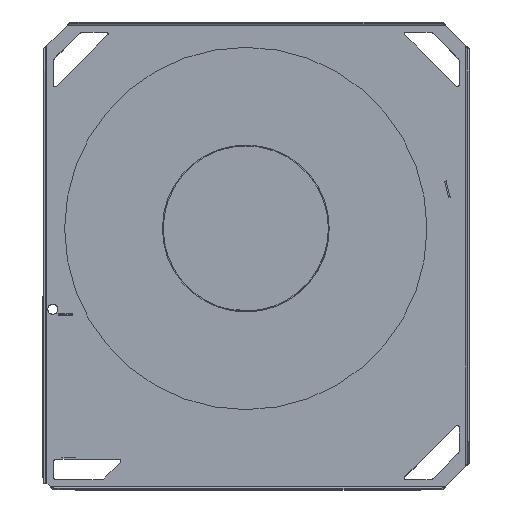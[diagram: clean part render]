
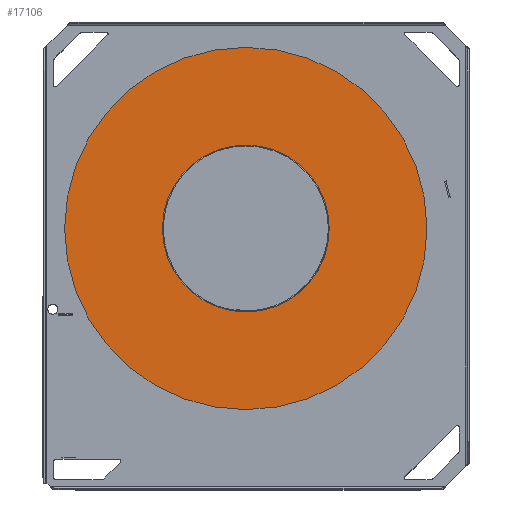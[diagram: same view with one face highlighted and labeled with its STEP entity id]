
A CAD part, top view. The second image highlights one B-rep face of the part: STEP entity #17106.
In plain terms, the highlighted planar face has unit normal (0, 0, 1).
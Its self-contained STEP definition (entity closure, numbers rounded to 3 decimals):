
#16962=CARTESIAN_POINT('',(0.,0.,2.));
#16963=DIRECTION('',(0.,0.,1.));
#16964=DIRECTION('',(1.,0.,0.));
#16965=AXIS2_PLACEMENT_3D('',#16962,#16963,#16964);
#16970=CARTESIAN_POINT('',(0.,0.,2.));
#16971=DIRECTION('',(0.,0.,1.));
#16972=DIRECTION('',(-1.,0.,0.));
#16973=AXIS2_PLACEMENT_3D('',#16970,#16971,#16972);
#16978=CARTESIAN_POINT('',(0.,0.,2.));
#16979=DIRECTION('',(0.,0.,-1.));
#16980=DIRECTION('',(1.,0.,0.));
#16981=AXIS2_PLACEMENT_3D('',#16978,#16979,#16980);
#16986=CARTESIAN_POINT('',(0.,0.,2.));
#16987=DIRECTION('',(0.,0.,-1.));
#16988=DIRECTION('',(-1.,0.,0.));
#16989=AXIS2_PLACEMENT_3D('',#16986,#16987,#16988);
#17016=CARTESIAN_POINT('',(215.,0.,2.));
#17017=CARTESIAN_POINT('',(-215.,0.,2.));
#17018=VERTEX_POINT('',#17016);
#17019=VERTEX_POINT('',#17017);
#17020=CARTESIAN_POINT('',(99.,0.,2.));
#17021=CARTESIAN_POINT('',(-99.,0.,2.));
#17022=VERTEX_POINT('',#17020);
#17023=VERTEX_POINT('',#17021);
#17091=CARTESIAN_POINT('',(0.,0.,2.));
#17092=DIRECTION('',(0.,0.,1.));
#17093=DIRECTION('',(1.,0.,0.));
#17094=AXIS2_PLACEMENT_3D('',#17091,#17092,#17093);
#17095=PLANE('',#17094);
#17096=ORIENTED_EDGE('',*,*,#17057,.F.);
#17097=ORIENTED_EDGE('',*,*,#17078,.F.);
#17098=EDGE_LOOP('',(#17096,#17097));
#17099=FACE_OUTER_BOUND('',#17098,.F.);
#17101=ORIENTED_EDGE('',*,*,#17100,.F.);
#17103=ORIENTED_EDGE('',*,*,#17102,.F.);
#17104=EDGE_LOOP('',(#17101,#17103));
#17105=FACE_BOUND('',#17104,.F.);
#16966=CIRCLE('',#16965,215.);
#16974=CIRCLE('',#16973,215.);
#16982=CIRCLE('',#16981,99.);
#16990=CIRCLE('',#16989,99.);
#17057=EDGE_CURVE('',#17018,#17019,#16966,.T.);
#17078=EDGE_CURVE('',#17019,#17018,#16974,.T.);
#17100=EDGE_CURVE('',#17022,#17023,#16982,.T.);
#17102=EDGE_CURVE('',#17023,#17022,#16990,.T.);
#17106=ADVANCED_FACE('',(#17099,#17105),#17095,.T.);
